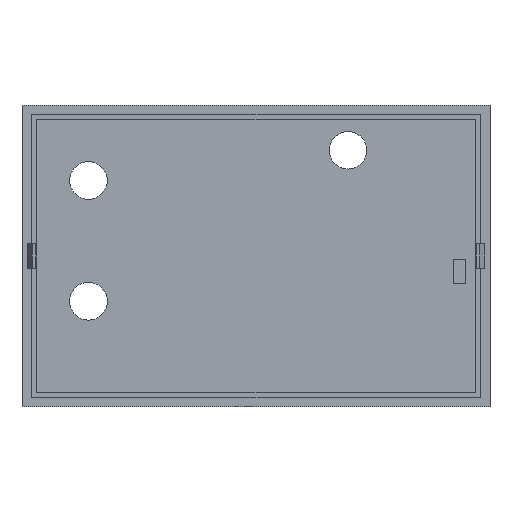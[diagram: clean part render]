
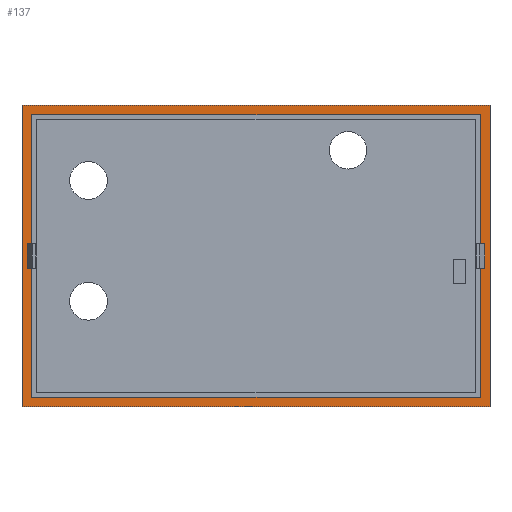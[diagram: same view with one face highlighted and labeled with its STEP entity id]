
A CAD part, front view. The second image highlights one B-rep face of the part: STEP entity #137.
In plain terms, the highlighted planar face has unit normal (0, -1, 0).
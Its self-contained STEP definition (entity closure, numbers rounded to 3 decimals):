
#21 = EDGE_CURVE('',#22,#24,#26,.T.);
#22 = VERTEX_POINT('',#23);
#23 = CARTESIAN_POINT('',(0.,112.,0.));
#24 = VERTEX_POINT('',#25);
#25 = CARTESIAN_POINT('',(0.,112.,100.));
#26 = SURFACE_CURVE('',#27,(#31,#43),.PCURVE_S1.);
#27 = LINE('',#28,#29);
#28 = CARTESIAN_POINT('',(0.,112.,0.));
#29 = VECTOR('',#30,1.);
#30 = DIRECTION('',(0.,0.,1.));
#31 = PCURVE('',#32,#37);
#32 = PLANE('',#33);
#33 = AXIS2_PLACEMENT_3D('',#34,#35,#36);
#34 = CARTESIAN_POINT('',(0.,112.,0.));
#35 = DIRECTION('',(1.,0.,0.));
#36 = DIRECTION('',(0.,0.,1.));
#37 = DEFINITIONAL_REPRESENTATION('',(#38),#42);
#38 = LINE('',#39,#40);
#39 = CARTESIAN_POINT('',(0.,0.));
#40 = VECTOR('',#41,1.);
#41 = DIRECTION('',(1.,0.));
#42 = ( GEOMETRIC_REPRESENTATION_CONTEXT(2) 
PARAMETRIC_REPRESENTATION_CONTEXT() REPRESENTATION_CONTEXT('2D SPACE',''
  ) );
#43 = PCURVE('',#44,#49);
#44 = PLANE('',#45);
#45 = AXIS2_PLACEMENT_3D('',#46,#47,#48);
#46 = CARTESIAN_POINT('',(0.,112.,0.));
#47 = DIRECTION('',(0.,1.,0.));
#48 = DIRECTION('',(0.,0.,1.));
#49 = DEFINITIONAL_REPRESENTATION('',(#50),#54);
#50 = LINE('',#51,#52);
#51 = CARTESIAN_POINT('',(0.,0.));
#52 = VECTOR('',#53,1.);
#53 = DIRECTION('',(1.,0.));
#54 = ( GEOMETRIC_REPRESENTATION_CONTEXT(2) 
PARAMETRIC_REPRESENTATION_CONTEXT() REPRESENTATION_CONTEXT('2D SPACE',''
  ) );
#72 = PLANE('',#73);
#73 = AXIS2_PLACEMENT_3D('',#74,#75,#76);
#74 = CARTESIAN_POINT('',(0.,112.,0.));
#75 = DIRECTION('',(0.,0.,1.));
#76 = DIRECTION('',(1.,0.,0.));
#126 = PLANE('',#127);
#127 = AXIS2_PLACEMENT_3D('',#128,#129,#130);
#128 = CARTESIAN_POINT('',(0.,112.,100.));
#129 = DIRECTION('',(0.,0.,1.));
#130 = DIRECTION('',(1.,0.,0.));
#137 = ADVANCED_FACE('',(#138,#213),#44,.F.);
#138 = FACE_BOUND('',#139,.F.);
#139 = EDGE_LOOP('',(#140,#163,#164,#187));
#140 = ORIENTED_EDGE('',*,*,#141,.F.);
#141 = EDGE_CURVE('',#22,#142,#144,.T.);
#142 = VERTEX_POINT('',#143);
#143 = CARTESIAN_POINT('',(155.,112.,0.));
#144 = SURFACE_CURVE('',#145,(#149,#156),.PCURVE_S1.);
#145 = LINE('',#146,#147);
#146 = CARTESIAN_POINT('',(0.,112.,0.));
#147 = VECTOR('',#148,1.);
#148 = DIRECTION('',(1.,0.,0.));
#149 = PCURVE('',#44,#150);
#150 = DEFINITIONAL_REPRESENTATION('',(#151),#155);
#151 = LINE('',#152,#153);
#152 = CARTESIAN_POINT('',(0.,0.));
#153 = VECTOR('',#154,1.);
#154 = DIRECTION('',(0.,1.));
#155 = ( GEOMETRIC_REPRESENTATION_CONTEXT(2) 
PARAMETRIC_REPRESENTATION_CONTEXT() REPRESENTATION_CONTEXT('2D SPACE',''
  ) );
#156 = PCURVE('',#72,#157);
#157 = DEFINITIONAL_REPRESENTATION('',(#158),#162);
#158 = LINE('',#159,#160);
#159 = CARTESIAN_POINT('',(0.,0.));
#160 = VECTOR('',#161,1.);
#161 = DIRECTION('',(1.,0.));
#162 = ( GEOMETRIC_REPRESENTATION_CONTEXT(2) 
PARAMETRIC_REPRESENTATION_CONTEXT() REPRESENTATION_CONTEXT('2D SPACE',''
  ) );
#163 = ORIENTED_EDGE('',*,*,#21,.T.);
#164 = ORIENTED_EDGE('',*,*,#165,.T.);
#165 = EDGE_CURVE('',#24,#166,#168,.T.);
#166 = VERTEX_POINT('',#167);
#167 = CARTESIAN_POINT('',(155.,112.,100.));
#168 = SURFACE_CURVE('',#169,(#173,#180),.PCURVE_S1.);
#169 = LINE('',#170,#171);
#170 = CARTESIAN_POINT('',(0.,112.,100.));
#171 = VECTOR('',#172,1.);
#172 = DIRECTION('',(1.,0.,0.));
#173 = PCURVE('',#44,#174);
#174 = DEFINITIONAL_REPRESENTATION('',(#175),#179);
#175 = LINE('',#176,#177);
#176 = CARTESIAN_POINT('',(100.,0.));
#177 = VECTOR('',#178,1.);
#178 = DIRECTION('',(0.,1.));
#179 = ( GEOMETRIC_REPRESENTATION_CONTEXT(2) 
PARAMETRIC_REPRESENTATION_CONTEXT() REPRESENTATION_CONTEXT('2D SPACE',''
  ) );
#180 = PCURVE('',#126,#181);
#181 = DEFINITIONAL_REPRESENTATION('',(#182),#186);
#182 = LINE('',#183,#184);
#183 = CARTESIAN_POINT('',(0.,0.));
#184 = VECTOR('',#185,1.);
#185 = DIRECTION('',(1.,0.));
#186 = ( GEOMETRIC_REPRESENTATION_CONTEXT(2) 
PARAMETRIC_REPRESENTATION_CONTEXT() REPRESENTATION_CONTEXT('2D SPACE',''
  ) );
#187 = ORIENTED_EDGE('',*,*,#188,.F.);
#188 = EDGE_CURVE('',#142,#166,#189,.T.);
#189 = SURFACE_CURVE('',#190,(#194,#201),.PCURVE_S1.);
#190 = LINE('',#191,#192);
#191 = CARTESIAN_POINT('',(155.,112.,0.));
#192 = VECTOR('',#193,1.);
#193 = DIRECTION('',(0.,0.,1.));
#194 = PCURVE('',#44,#195);
#195 = DEFINITIONAL_REPRESENTATION('',(#196),#200);
#196 = LINE('',#197,#198);
#197 = CARTESIAN_POINT('',(0.,155.));
#198 = VECTOR('',#199,1.);
#199 = DIRECTION('',(1.,0.));
#200 = ( GEOMETRIC_REPRESENTATION_CONTEXT(2) 
PARAMETRIC_REPRESENTATION_CONTEXT() REPRESENTATION_CONTEXT('2D SPACE',''
  ) );
#201 = PCURVE('',#202,#207);
#202 = PLANE('',#203);
#203 = AXIS2_PLACEMENT_3D('',#204,#205,#206);
#204 = CARTESIAN_POINT('',(155.,112.,0.));
#205 = DIRECTION('',(1.,0.,0.));
#206 = DIRECTION('',(0.,0.,1.));
#207 = DEFINITIONAL_REPRESENTATION('',(#208),#212);
#208 = LINE('',#209,#210);
#209 = CARTESIAN_POINT('',(0.,0.));
#210 = VECTOR('',#211,1.);
#211 = DIRECTION('',(1.,0.));
#212 = ( GEOMETRIC_REPRESENTATION_CONTEXT(2) 
PARAMETRIC_REPRESENTATION_CONTEXT() REPRESENTATION_CONTEXT('2D SPACE',''
  ) );
#213 = FACE_BOUND('',#214,.F.);
#214 = EDGE_LOOP('',(#215,#245,#273,#301));
#215 = ORIENTED_EDGE('',*,*,#216,.F.);
#216 = EDGE_CURVE('',#217,#219,#221,.T.);
#217 = VERTEX_POINT('',#218);
#218 = CARTESIAN_POINT('',(3.3,112.,96.7));
#219 = VERTEX_POINT('',#220);
#220 = CARTESIAN_POINT('',(151.7,112.,96.7));
#221 = SURFACE_CURVE('',#222,(#226,#233),.PCURVE_S1.);
#222 = LINE('',#223,#224);
#223 = CARTESIAN_POINT('',(3.3,112.,96.7));
#224 = VECTOR('',#225,1.);
#225 = DIRECTION('',(1.,0.,0.));
#226 = PCURVE('',#44,#227);
#227 = DEFINITIONAL_REPRESENTATION('',(#228),#232);
#228 = LINE('',#229,#230);
#229 = CARTESIAN_POINT('',(96.7,3.3));
#230 = VECTOR('',#231,1.);
#231 = DIRECTION('',(0.,1.));
#232 = ( GEOMETRIC_REPRESENTATION_CONTEXT(2) 
PARAMETRIC_REPRESENTATION_CONTEXT() REPRESENTATION_CONTEXT('2D SPACE',''
  ) );
#233 = PCURVE('',#234,#239);
#234 = PLANE('',#235);
#235 = AXIS2_PLACEMENT_3D('',#236,#237,#238);
#236 = CARTESIAN_POINT('',(3.3,109.,96.7));
#237 = DIRECTION('',(0.,0.,1.));
#238 = DIRECTION('',(1.,0.,0.));
#239 = DEFINITIONAL_REPRESENTATION('',(#240),#244);
#240 = LINE('',#241,#242);
#241 = CARTESIAN_POINT('',(0.,3.));
#242 = VECTOR('',#243,1.);
#243 = DIRECTION('',(1.,0.));
#244 = ( GEOMETRIC_REPRESENTATION_CONTEXT(2) 
PARAMETRIC_REPRESENTATION_CONTEXT() REPRESENTATION_CONTEXT('2D SPACE',''
  ) );
#245 = ORIENTED_EDGE('',*,*,#246,.F.);
#246 = EDGE_CURVE('',#247,#217,#249,.T.);
#247 = VERTEX_POINT('',#248);
#248 = CARTESIAN_POINT('',(3.3,112.,3.3));
#249 = SURFACE_CURVE('',#250,(#254,#261),.PCURVE_S1.);
#250 = LINE('',#251,#252);
#251 = CARTESIAN_POINT('',(3.3,112.,3.3));
#252 = VECTOR('',#253,1.);
#253 = DIRECTION('',(0.,0.,1.));
#254 = PCURVE('',#44,#255);
#255 = DEFINITIONAL_REPRESENTATION('',(#256),#260);
#256 = LINE('',#257,#258);
#257 = CARTESIAN_POINT('',(3.3,3.3));
#258 = VECTOR('',#259,1.);
#259 = DIRECTION('',(1.,0.));
#260 = ( GEOMETRIC_REPRESENTATION_CONTEXT(2) 
PARAMETRIC_REPRESENTATION_CONTEXT() REPRESENTATION_CONTEXT('2D SPACE',''
  ) );
#261 = PCURVE('',#262,#267);
#262 = PLANE('',#263);
#263 = AXIS2_PLACEMENT_3D('',#264,#265,#266);
#264 = CARTESIAN_POINT('',(3.3,109.,3.3));
#265 = DIRECTION('',(1.,0.,0.));
#266 = DIRECTION('',(0.,0.,1.));
#267 = DEFINITIONAL_REPRESENTATION('',(#268),#272);
#268 = LINE('',#269,#270);
#269 = CARTESIAN_POINT('',(0.,-3.));
#270 = VECTOR('',#271,1.);
#271 = DIRECTION('',(1.,0.));
#272 = ( GEOMETRIC_REPRESENTATION_CONTEXT(2) 
PARAMETRIC_REPRESENTATION_CONTEXT() REPRESENTATION_CONTEXT('2D SPACE',''
  ) );
#273 = ORIENTED_EDGE('',*,*,#274,.T.);
#274 = EDGE_CURVE('',#247,#275,#277,.T.);
#275 = VERTEX_POINT('',#276);
#276 = CARTESIAN_POINT('',(151.7,112.,3.3));
#277 = SURFACE_CURVE('',#278,(#282,#289),.PCURVE_S1.);
#278 = LINE('',#279,#280);
#279 = CARTESIAN_POINT('',(3.3,112.,3.3));
#280 = VECTOR('',#281,1.);
#281 = DIRECTION('',(1.,0.,0.));
#282 = PCURVE('',#44,#283);
#283 = DEFINITIONAL_REPRESENTATION('',(#284),#288);
#284 = LINE('',#285,#286);
#285 = CARTESIAN_POINT('',(3.3,3.3));
#286 = VECTOR('',#287,1.);
#287 = DIRECTION('',(0.,1.));
#288 = ( GEOMETRIC_REPRESENTATION_CONTEXT(2) 
PARAMETRIC_REPRESENTATION_CONTEXT() REPRESENTATION_CONTEXT('2D SPACE',''
  ) );
#289 = PCURVE('',#290,#295);
#290 = PLANE('',#291);
#291 = AXIS2_PLACEMENT_3D('',#292,#293,#294);
#292 = CARTESIAN_POINT('',(3.3,109.,3.3));
#293 = DIRECTION('',(0.,0.,1.));
#294 = DIRECTION('',(1.,0.,0.));
#295 = DEFINITIONAL_REPRESENTATION('',(#296),#300);
#296 = LINE('',#297,#298);
#297 = CARTESIAN_POINT('',(0.,3.));
#298 = VECTOR('',#299,1.);
#299 = DIRECTION('',(1.,0.));
#300 = ( GEOMETRIC_REPRESENTATION_CONTEXT(2) 
PARAMETRIC_REPRESENTATION_CONTEXT() REPRESENTATION_CONTEXT('2D SPACE',''
  ) );
#301 = ORIENTED_EDGE('',*,*,#302,.T.);
#302 = EDGE_CURVE('',#275,#219,#303,.T.);
#303 = SURFACE_CURVE('',#304,(#308,#315),.PCURVE_S1.);
#304 = LINE('',#305,#306);
#305 = CARTESIAN_POINT('',(151.7,112.,3.3));
#306 = VECTOR('',#307,1.);
#307 = DIRECTION('',(0.,0.,1.));
#308 = PCURVE('',#44,#309);
#309 = DEFINITIONAL_REPRESENTATION('',(#310),#314);
#310 = LINE('',#311,#312);
#311 = CARTESIAN_POINT('',(3.3,151.7));
#312 = VECTOR('',#313,1.);
#313 = DIRECTION('',(1.,0.));
#314 = ( GEOMETRIC_REPRESENTATION_CONTEXT(2) 
PARAMETRIC_REPRESENTATION_CONTEXT() REPRESENTATION_CONTEXT('2D SPACE',''
  ) );
#315 = PCURVE('',#316,#321);
#316 = PLANE('',#317);
#317 = AXIS2_PLACEMENT_3D('',#318,#319,#320);
#318 = CARTESIAN_POINT('',(151.7,109.,3.3));
#319 = DIRECTION('',(1.,0.,0.));
#320 = DIRECTION('',(0.,0.,1.));
#321 = DEFINITIONAL_REPRESENTATION('',(#322),#326);
#322 = LINE('',#323,#324);
#323 = CARTESIAN_POINT('',(0.,-3.));
#324 = VECTOR('',#325,1.);
#325 = DIRECTION('',(1.,0.));
#326 = ( GEOMETRIC_REPRESENTATION_CONTEXT(2) 
PARAMETRIC_REPRESENTATION_CONTEXT() REPRESENTATION_CONTEXT('2D SPACE',''
  ) );
